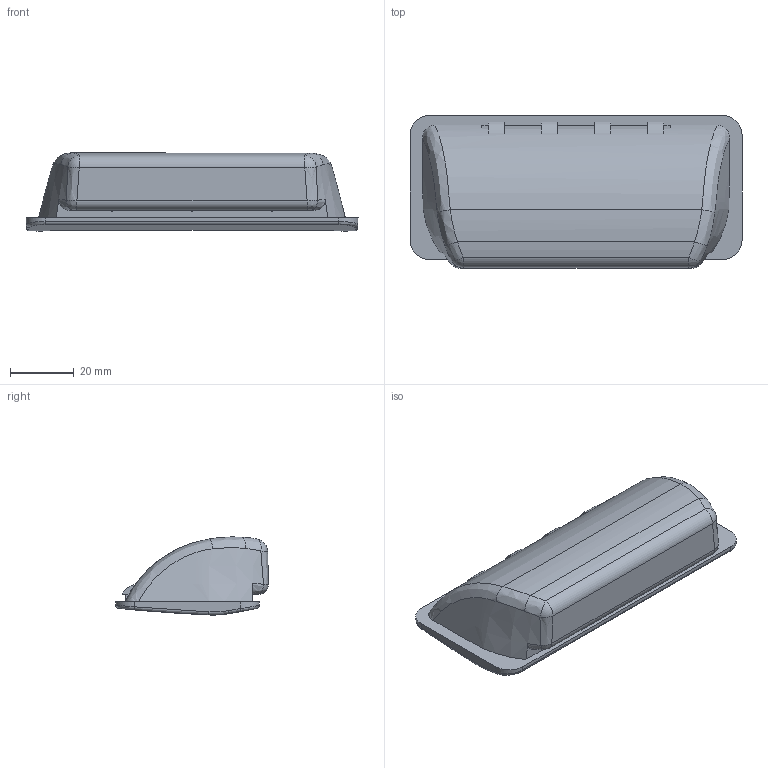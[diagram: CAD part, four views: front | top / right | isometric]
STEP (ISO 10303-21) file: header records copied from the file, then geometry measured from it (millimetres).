
FILE_DESCRIPTION (( 'STEP AP203' ), '1' );
FILE_NAME ('E25-25232.STEP', '2024-10-29T08:17:12', ( '' ), ( '' ), 'SwSTEP 2.0', 'SolidWorks 2021', '' );
FILE_SCHEMA (( 'CONFIG_CONTROL_DESIGN' ));
Length unit declared in the file: millimetre
Products named in the file (1): E25-25232
Bounding box: 104 x 47.84 x 24.46 mm (x, y, z)
Volume: 20076.5 mm3; surface area: 18965.7 mm2
Topology: 1 solids, 1 shells, 135 faces, 322 edges, 188 vertices
Faces by surface type: bspline 60, plane 41, cylinder 24, sphere 6, cone 4
Entity records: 5900 total; most frequent: CARTESIAN_POINT 3183, ORIENTED_EDGE 640, DIRECTION 428, EDGE_CURVE 320, VERTEX_POINT 188, AXIS2_PLACEMENT_3D 156, EDGE_LOOP 136, ADVANCED_FACE 135
